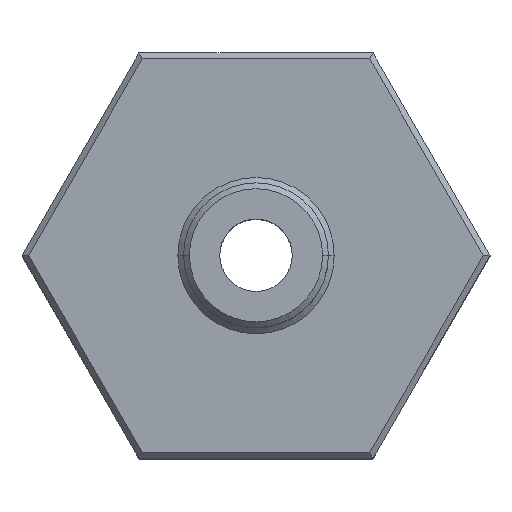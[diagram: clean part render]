
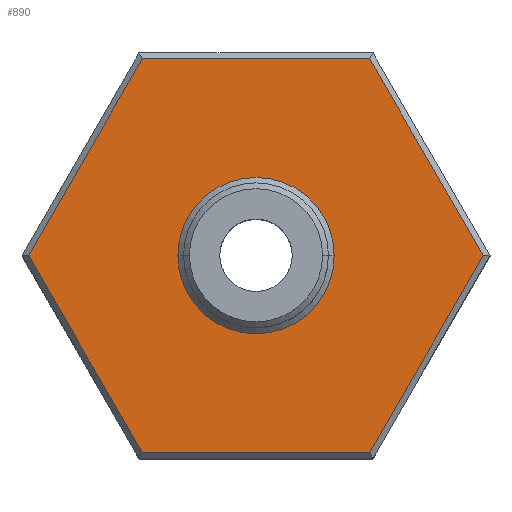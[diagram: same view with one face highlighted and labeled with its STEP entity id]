
A CAD part, top view. The second image highlights one B-rep face of the part: STEP entity #890.
In plain terms, the highlighted planar face has unit normal (0, 0, 1).
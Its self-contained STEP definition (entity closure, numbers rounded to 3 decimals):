
#5 = CARTESIAN_POINT ( 'NONE',  ( -2.7, 0., 15. ) ) ;
#22 = CARTESIAN_POINT ( 'NONE',  ( -3.926, -6.8, 15. ) ) ;
#33 = ORIENTED_EDGE ( 'NONE', *, *, #353, .T. ) ;
#36 = ORIENTED_EDGE ( 'NONE', *, *, #702, .T. ) ;
#39 = AXIS2_PLACEMENT_3D ( 'NONE', #158, #161, #633 ) ;
#41 = ORIENTED_EDGE ( 'NONE', *, *, #86, .T. ) ;
#49 = EDGE_CURVE ( 'NONE', #927, #412, #929, .T. ) ;
#52 = VERTEX_POINT ( 'NONE', #141 ) ;
#58 = ORIENTED_EDGE ( 'NONE', *, *, #431, .T. ) ;
#62 = AXIS2_PLACEMENT_3D ( 'NONE', #636, #778, #149 ) ;
#83 = CARTESIAN_POINT ( 'NONE',  ( -3.926, 6.8, 15. ) ) ;
#86 = EDGE_CURVE ( 'NONE', #308, #944, #427, .T. ) ;
#117 = LINE ( 'NONE', #200, #254 ) ;
#141 = CARTESIAN_POINT ( 'NONE',  ( 7.852, 0., 15. ) ) ;
#149 = DIRECTION ( 'NONE',  ( 1., 0., 0. ) ) ;
#158 = CARTESIAN_POINT ( 'NONE',  ( 0., 0., 15. ) ) ;
#161 = DIRECTION ( 'NONE',  ( 0., 0., 1. ) ) ;
#165 = ORIENTED_EDGE ( 'NONE', *, *, #819, .T. ) ;
#184 = CARTESIAN_POINT ( 'NONE',  ( -3.868, -6.9, 15. ) ) ;
#200 = CARTESIAN_POINT ( 'NONE',  ( 7.91, 0.1, 15. ) ) ;
#218 = CARTESIAN_POINT ( 'NONE',  ( 2.7, 0., 15. ) ) ;
#219 = CARTESIAN_POINT ( 'NONE',  ( 0., 0., 15. ) ) ;
#253 = VECTOR ( 'NONE', #740, 1000. ) ;
#254 = VECTOR ( 'NONE', #434, 1000. ) ;
#255 = VERTEX_POINT ( 'NONE', #457 ) ;
#278 = EDGE_LOOP ( 'NONE', ( #41, #779, #36, #33, #58, #336 ) ) ;
#308 = VERTEX_POINT ( 'NONE', #901 ) ;
#336 = ORIENTED_EDGE ( 'NONE', *, *, #850, .T. ) ;
#353 = EDGE_CURVE ( 'NONE', #52, #973, #432, .T. ) ;
#362 = AXIS2_PLACEMENT_3D ( 'NONE', #219, #381, #983 ) ;
#381 = DIRECTION ( 'NONE',  ( 0., 0., -1. ) ) ;
#391 = LINE ( 'NONE', #982, #487 ) ;
#412 = VERTEX_POINT ( 'NONE', #218 ) ;
#413 = ORIENTED_EDGE ( 'NONE', *, *, #49, .T. ) ;
#427 = LINE ( 'NONE', #184, #546 ) ;
#431 = EDGE_CURVE ( 'NONE', #973, #870, #391, .T. ) ;
#432 = LINE ( 'NONE', #672, #253 ) ;
#434 = DIRECTION ( 'NONE',  ( 0.5, 0.866, 0. ) ) ;
#457 = CARTESIAN_POINT ( 'NONE',  ( 3.926, -6.8, 15. ) ) ;
#460 = EDGE_CURVE ( 'NONE', #944, #255, #685, .T. ) ;
#466 = FACE_OUTER_BOUND ( 'NONE', #278, .T. ) ;
#480 = DIRECTION ( 'NONE',  ( -0.5, -0.866, 0. ) ) ;
#487 = VECTOR ( 'NONE', #695, 1000. ) ;
#492 = CARTESIAN_POINT ( 'NONE',  ( 3.926, 6.8, 15. ) ) ;
#546 = VECTOR ( 'NONE', #729, 1000. ) ;
#621 = LINE ( 'NONE', #844, #642 ) ;
#631 = CARTESIAN_POINT ( 'NONE',  ( 4.041, -6.8, 15. ) ) ;
#633 = DIRECTION ( 'NONE',  ( 1., 0., 0. ) ) ;
#636 = CARTESIAN_POINT ( 'NONE',  ( 0., 0., 15. ) ) ;
#642 = VECTOR ( 'NONE', #480, 1000. ) ;
#672 = CARTESIAN_POINT ( 'NONE',  ( 3.868, 6.9, 15. ) ) ;
#678 = VECTOR ( 'NONE', #761, 1000. ) ;
#685 = LINE ( 'NONE', #631, #678 ) ;
#695 = DIRECTION ( 'NONE',  ( -1., 0., 0. ) ) ;
#701 = FACE_BOUND ( 'NONE', #956, .T. ) ;
#702 = EDGE_CURVE ( 'NONE', #255, #52, #117, .T. ) ;
#729 = DIRECTION ( 'NONE',  ( 0.5, -0.866, 0. ) ) ;
#740 = DIRECTION ( 'NONE',  ( -0.5, 0.866, 0. ) ) ;
#761 = DIRECTION ( 'NONE',  ( 1., 0., 0. ) ) ;
#778 = DIRECTION ( 'NONE',  ( 0., 0., -1. ) ) ;
#779 = ORIENTED_EDGE ( 'NONE', *, *, #460, .T. ) ;
#819 = EDGE_CURVE ( 'NONE', #412, #927, #925, .T. ) ;
#844 = CARTESIAN_POINT ( 'NONE',  ( -7.91, -0.1, 15. ) ) ;
#850 = EDGE_CURVE ( 'NONE', #870, #308, #621, .T. ) ;
#853 = PLANE ( 'NONE',  #39 ) ;
#870 = VERTEX_POINT ( 'NONE', #83 ) ;
#890 = ADVANCED_FACE ( 'NONE', ( #466, #701 ), #853, .T. ) ;
#901 = CARTESIAN_POINT ( 'NONE',  ( -7.852, 0., 15. ) ) ;
#925 = CIRCLE ( 'NONE', #62, 2.7 ) ;
#927 = VERTEX_POINT ( 'NONE', #5 ) ;
#929 = CIRCLE ( 'NONE', #362, 2.7 ) ;
#944 = VERTEX_POINT ( 'NONE', #22 ) ;
#956 = EDGE_LOOP ( 'NONE', ( #413, #165 ) ) ;
#973 = VERTEX_POINT ( 'NONE', #492 ) ;
#982 = CARTESIAN_POINT ( 'NONE',  ( -4.041, 6.8, 15. ) ) ;
#983 = DIRECTION ( 'NONE',  ( 1., 0., 0. ) ) ;
